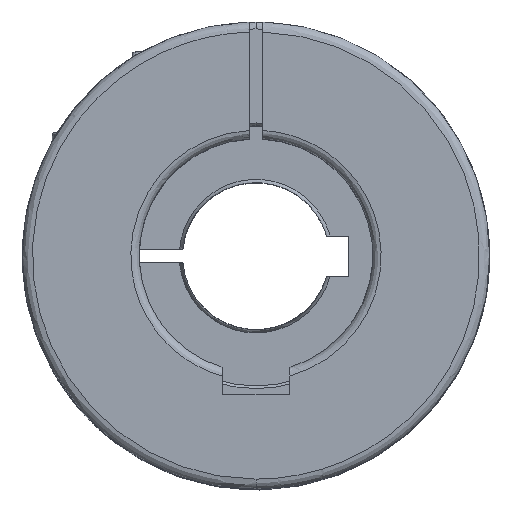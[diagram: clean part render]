
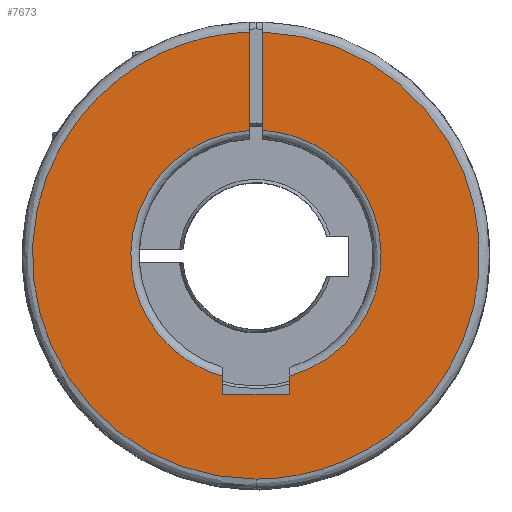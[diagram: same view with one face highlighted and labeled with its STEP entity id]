
A CAD part, top view. The second image highlights one B-rep face of the part: STEP entity #7673.
In plain terms, the highlighted planar face has unit normal (0, 0, 1).
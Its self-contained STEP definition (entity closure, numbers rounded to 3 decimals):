
#7635 = VERTEX_POINT ( 'NONE', #11651 ) ;
#7637 = VERTEX_POINT ( 'NONE', #11639 ) ;
#7640 = EDGE_LOOP ( 'NONE', ( #7665, #7694, #7692, #7690, #7686, #7688, #7684, #7683, #7685 ) ) ;
#7651 = EDGE_CURVE ( 'NONE', #7637, #7635, #11673, .T. ) ;
#7664 = VERTEX_POINT ( 'NONE', #11742 ) ;
#7665 = ORIENTED_EDGE ( 'NONE', *, *, #7651, .F. ) ;
#7667 = EDGE_CURVE ( 'NONE', #7635, #7664, #11735, .T. ) ;
#7673 = ADVANCED_FACE ( 'NONE', ( #11737 ), #11736, .F. ) ;
#7675 = EDGE_CURVE ( 'NONE', #7664, #7983, #11762, .T. ) ;
#7683 = ORIENTED_EDGE ( 'NONE', *, *, #7675, .F. ) ;
#7684 = ORIENTED_EDGE ( 'NONE', *, *, #7978, .F. ) ;
#7685 = ORIENTED_EDGE ( 'NONE', *, *, #7667, .F. ) ;
#7686 = ORIENTED_EDGE ( 'NONE', *, *, #7971, .F. ) ;
#7687 = EDGE_CURVE ( 'NONE', #7972, #7695, #11828, .T. ) ;
#7688 = ORIENTED_EDGE ( 'NONE', *, *, #8046, .F. ) ;
#7690 = ORIENTED_EDGE ( 'NONE', *, *, #7687, .F. ) ;
#7692 = ORIENTED_EDGE ( 'NONE', *, *, #8833, .F. ) ;
#7694 = ORIENTED_EDGE ( 'NONE', *, *, #7729, .F. ) ;
#7695 = VERTEX_POINT ( 'NONE', #11864 ) ;
#7729 = EDGE_CURVE ( 'NONE', #7732, #7637, #11937, .T. ) ;
#7732 = VERTEX_POINT ( 'NONE', #11938 ) ;
#7903 = VERTEX_POINT ( 'NONE', #12641 ) ;
#7971 = EDGE_CURVE ( 'NONE', #7903, #7972, #12807, .T. ) ;
#7972 = VERTEX_POINT ( 'NONE', #12806 ) ;
#7978 = EDGE_CURVE ( 'NONE', #7983, #8047, #12831, .T. ) ;
#7983 = VERTEX_POINT ( 'NONE', #12823 ) ;
#8046 = EDGE_CURVE ( 'NONE', #8047, #7903, #13137, .T. ) ;
#8047 = VERTEX_POINT ( 'NONE', #13133 ) ;
#8833 = EDGE_CURVE ( 'NONE', #7695, #7732, #15100, .T. ) ;
#11639 = CARTESIAN_POINT ( 'NONE',  ( -1.172, -29.826, 62.541 ) ) ;
#11651 = CARTESIAN_POINT ( 'NONE',  ( -2.172, 37.159, 62.541 ) ) ;
#11670 = CARTESIAN_POINT ( 'NONE',  ( -67.193, 35.217, 62.541 ) ) ;
#11671 = CARTESIAN_POINT ( 'NONE',  ( -66.222, -29.826, 62.541 ) ) ;
#11672 = CARTESIAN_POINT ( 'NONE',  ( -1.172, -29.826, 62.541 ) ) ;
#11673 =( BOUNDED_CURVE ( )  B_SPLINE_CURVE ( 3, ( #11672, #11671, #11670, #11718 ),
 .UNSPECIFIED., .F., .T. ) 
 B_SPLINE_CURVE_WITH_KNOTS ( ( 4, 4 ),
 ( 0., 1. ),
 .UNSPECIFIED. ) 
 CURVE ( )  GEOMETRIC_REPRESENTATION_ITEM ( )  RATIONAL_B_SPLINE_CURVE ( ( 1., 0.343, 0.343, 1. ) ) 
 REPRESENTATION_ITEM ( '' )  );
#11718 = CARTESIAN_POINT ( 'NONE',  ( -2.172, 37.159, 62.541 ) ) ;
#11735 = LINE ( 'NONE', #11740, #11739 ) ;
#11736 = PLANE ( 'NONE',  #11766 ) ;
#11737 = FACE_OUTER_BOUND ( 'NONE', #7640, .T. ) ;
#11738 = DIRECTION ( 'NONE',  ( 0., -1., 0. ) ) ;
#11739 = VECTOR ( 'NONE', #11738, 1000. ) ;
#11740 = CARTESIAN_POINT ( 'NONE',  ( -2.172, 3.674, 62.541 ) ) ;
#11742 = CARTESIAN_POINT ( 'NONE',  ( -2.172, 22.397, 62.541 ) ) ;
#11758 = CARTESIAN_POINT ( 'NONE',  ( -6.172, -14.397, 62.541 ) ) ;
#11759 = CARTESIAN_POINT ( 'NONE',  ( -33.156, -6.931, 62.541 ) ) ;
#11760 = CARTESIAN_POINT ( 'NONE',  ( -30.13, 20.904, 62.541 ) ) ;
#11761 = CARTESIAN_POINT ( 'NONE',  ( -2.172, 22.397, 62.541 ) ) ;
#11762 =( BOUNDED_CURVE ( )  B_SPLINE_CURVE ( 3, ( #11761, #11760, #11759, #11758 ),
 .UNSPECIFIED., .F., .F. ) 
 B_SPLINE_CURVE_WITH_KNOTS ( ( 4, 4 ),
 ( 0., 1. ),
 .UNSPECIFIED. ) 
 CURVE ( )  GEOMETRIC_REPRESENTATION_ITEM ( )  RATIONAL_B_SPLINE_CURVE ( ( 1., 0.441, 0.441, 1. ) ) 
 REPRESENTATION_ITEM ( '' )  );
#11763 = DIRECTION ( 'NONE',  ( 0., 1., 0. ) ) ;
#11764 = DIRECTION ( 'NONE',  ( 0., 0., -1. ) ) ;
#11765 = CARTESIAN_POINT ( 'NONE',  ( -1.172, 3.674, 62.541 ) ) ;
#11766 = AXIS2_PLACEMENT_3D ( 'NONE', #11765, #11764, #11763 ) ;
#11828 =( BOUNDED_CURVE ( )  B_SPLINE_CURVE ( 3, ( #11869, #11868, #11867, #11866 ),
 .UNSPECIFIED., .F., .T. ) 
 B_SPLINE_CURVE_WITH_KNOTS ( ( 4, 4 ),
 ( 0., 1. ),
 .UNSPECIFIED. ) 
 CURVE ( )  GEOMETRIC_REPRESENTATION_ITEM ( )  RATIONAL_B_SPLINE_CURVE ( ( 1., 0.441, 0.441, 1. ) ) 
 REPRESENTATION_ITEM ( '' )  );
#11864 = CARTESIAN_POINT ( 'NONE',  ( -0.172, 22.397, 62.541 ) ) ;
#11866 = CARTESIAN_POINT ( 'NONE',  ( -0.172, 22.397, 62.541 ) ) ;
#11867 = CARTESIAN_POINT ( 'NONE',  ( 27.787, 20.904, 62.541 ) ) ;
#11868 = CARTESIAN_POINT ( 'NONE',  ( 30.813, -6.931, 62.541 ) ) ;
#11869 = CARTESIAN_POINT ( 'NONE',  ( 3.828, -14.397, 62.541 ) ) ;
#11937 =( BOUNDED_CURVE ( )  B_SPLINE_CURVE ( 3, ( #11996, #11995, #11994, #11993 ),
 .UNSPECIFIED., .F., .T. ) 
 B_SPLINE_CURVE_WITH_KNOTS ( ( 4, 4 ),
 ( 0., 1. ),
 .UNSPECIFIED. ) 
 CURVE ( )  GEOMETRIC_REPRESENTATION_ITEM ( )  RATIONAL_B_SPLINE_CURVE ( ( 1., 0.343, 0.343, 1. ) ) 
 REPRESENTATION_ITEM ( '' )  );
#11938 = CARTESIAN_POINT ( 'NONE',  ( -0.172, 37.159, 62.541 ) ) ;
#11993 = CARTESIAN_POINT ( 'NONE',  ( -1.172, -29.826, 62.541 ) ) ;
#11994 = CARTESIAN_POINT ( 'NONE',  ( 63.879, -29.826, 62.541 ) ) ;
#11995 = CARTESIAN_POINT ( 'NONE',  ( 64.85, 35.217, 62.541 ) ) ;
#11996 = CARTESIAN_POINT ( 'NONE',  ( -0.172, 37.159, 62.541 ) ) ;
#12641 = CARTESIAN_POINT ( 'NONE',  ( 3.828, -17.126, 62.541 ) ) ;
#12803 = DIRECTION ( 'NONE',  ( 0., 1., 0. ) ) ;
#12804 = VECTOR ( 'NONE', #12803, 1000. ) ;
#12805 = CARTESIAN_POINT ( 'NONE',  ( 3.828, -17.126, 62.541 ) ) ;
#12806 = CARTESIAN_POINT ( 'NONE',  ( 3.828, -14.397, 62.541 ) ) ;
#12807 = LINE ( 'NONE', #12805, #12804 ) ;
#12823 = CARTESIAN_POINT ( 'NONE',  ( -6.172, -14.397, 62.541 ) ) ;
#12824 = DIRECTION ( 'NONE',  ( 0., -1., 0. ) ) ;
#12825 = VECTOR ( 'NONE', #12824, 1000. ) ;
#12826 = CARTESIAN_POINT ( 'NONE',  ( -6.172, -13.096, 62.541 ) ) ;
#12831 = LINE ( 'NONE', #12826, #12825 ) ;
#13133 = CARTESIAN_POINT ( 'NONE',  ( -6.172, -17.126, 62.541 ) ) ;
#13134 = DIRECTION ( 'NONE',  ( 1., 0., 0. ) ) ;
#13135 = VECTOR ( 'NONE', #13134, 1000. ) ;
#13136 = CARTESIAN_POINT ( 'NONE',  ( -6.172, -17.126, 62.541 ) ) ;
#13137 = LINE ( 'NONE', #13136, #13135 ) ;
#15093 = DIRECTION ( 'NONE',  ( 0., 1., 0. ) ) ;
#15094 = VECTOR ( 'NONE', #15093, 1000. ) ;
#15095 = CARTESIAN_POINT ( 'NONE',  ( -0.172, 3.674, 62.541 ) ) ;
#15100 = LINE ( 'NONE', #15095, #15094 ) ;
